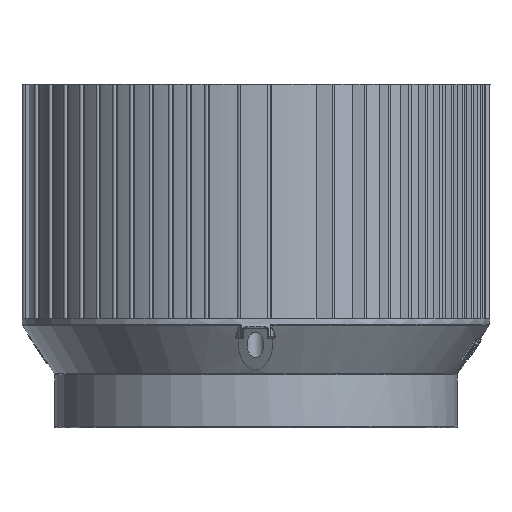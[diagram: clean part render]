
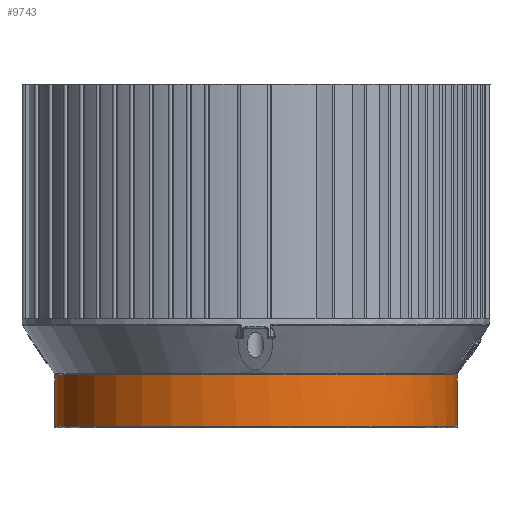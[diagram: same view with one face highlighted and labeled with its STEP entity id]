
A CAD part, front view. The second image highlights one B-rep face of the part: STEP entity #9743.
In plain terms, the highlighted cylindrical face has radius 30.1 mm (diameter 60.2 mm), a partial arc.
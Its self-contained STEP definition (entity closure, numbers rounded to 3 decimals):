
#2300=CARTESIAN_POINT('',(261.953,-40.756,
-40.891));
#2301=DIRECTION('',(0.,1.,0.));
#2302=DIRECTION('',(-0.543,0.,0.84));
#2303=AXIS2_PLACEMENT_3D('',#2300,#2301,#2302);
#2305=CARTESIAN_POINT('',(261.953,-40.756,
-40.891));
#2306=DIRECTION('',(0.,1.,0.));
#2307=DIRECTION('',(0.423,0.,0.906));
#2308=AXIS2_PLACEMENT_3D('',#2305,#2306,#2307);
#2310=CARTESIAN_POINT('',(261.953,-40.756,
-40.891));
#2311=DIRECTION('',(0.,1.,0.));
#2312=DIRECTION('',(0.771,0.,-0.637));
#2313=AXIS2_PLACEMENT_3D('',#2310,#2311,#2312);
#2315=CARTESIAN_POINT('',(261.953,-40.756,
-40.891));
#2316=DIRECTION('',(0.,1.,0.));
#2317=DIRECTION('',(-0.423,0.,-0.906));
#2318=AXIS2_PLACEMENT_3D('',#2315,#2316,#2317);
#2344=DIRECTION('',(0.,1.,0.));
#2345=VECTOR('',#2344,7.71);
#2346=CARTESIAN_POINT('',(238.593,-40.756,
-21.909));
#2347=LINE('',#2346,#2345);
#2378=CARTESIAN_POINT('',(261.953,-33.047,
-40.891));
#2379=DIRECTION('',(0.,-1.,0.));
#2380=DIRECTION('',(-0.776,0.,0.631));
#2381=AXIS2_PLACEMENT_3D('',#2378,#2379,#2380);
#2383=CARTESIAN_POINT('',(261.953,-33.047,
-40.891));
#2384=DIRECTION('',(0.,-1.,0.));
#2385=DIRECTION('',(-0.423,0.,-0.906));
#2386=AXIS2_PLACEMENT_3D('',#2383,#2384,#2385);
#2388=CARTESIAN_POINT('',(261.953,-33.047,
-40.891));
#2389=DIRECTION('',(0.,-1.,0.));
#2390=DIRECTION('',(0.551,0.,-0.834));
#2391=AXIS2_PLACEMENT_3D('',#2388,#2389,#2390);
#2393=CARTESIAN_POINT('',(261.953,-33.047,
-40.891));
#2394=DIRECTION('',(0.,-1.,0.));
#2395=DIRECTION('',(0.423,0.,0.906));
#2396=AXIS2_PLACEMENT_3D('',#2393,#2394,#2395);
#2398=DIRECTION('',(0.,1.,0.));
#2399=VECTOR('',#2398,7.71);
#2400=CARTESIAN_POINT('',(245.61,-40.756,
-15.614));
#2401=LINE('',#2400,#2399);
#5508=CARTESIAN_POINT('',(245.61,-40.756,
-15.614));
#5509=VERTEX_POINT('',#5508);
#5510=CARTESIAN_POINT('',(274.674,-40.756,
-13.611));
#5511=VERTEX_POINT('',#5510);
#5512=CARTESIAN_POINT('',(285.165,-40.756,
-60.054));
#5513=VERTEX_POINT('',#5512);
#5514=CARTESIAN_POINT('',(249.233,-40.756,
-68.171));
#5515=VERTEX_POINT('',#5514);
#5516=CARTESIAN_POINT('',(238.593,-40.756,
-21.909));
#5517=VERTEX_POINT('',#5516);
#5518=CARTESIAN_POINT('',(245.61,-33.047,
-15.614));
#5519=CARTESIAN_POINT('',(238.593,-33.047,
-21.909));
#5520=VERTEX_POINT('',#5518);
#5521=VERTEX_POINT('',#5519);
#5528=CARTESIAN_POINT('',(249.233,-33.047,
-68.171));
#5529=VERTEX_POINT('',#5528);
#5530=CARTESIAN_POINT('',(278.539,-33.047,
-66.009));
#5531=VERTEX_POINT('',#5530);
#5532=CARTESIAN_POINT('',(274.674,-33.047,
-13.611));
#5533=VERTEX_POINT('',#5532);
#9726=CARTESIAN_POINT('',(261.953,7.453,-40.891));
#9727=DIRECTION('',(0.,-1.,0.));
#9728=DIRECTION('',(0.423,0.,0.906));
#9729=AXIS2_PLACEMENT_3D('',#9726,#9727,#9728);
#9730=CYLINDRICAL_SURFACE('',#9729,30.1);
#9731=ORIENTED_EDGE('',*,*,#9720,.F.);
#9732=ORIENTED_EDGE('',*,*,#9718,.F.);
#9733=ORIENTED_EDGE('',*,*,#9716,.F.);
#9734=ORIENTED_EDGE('',*,*,#9714,.F.);
#9735=ORIENTED_EDGE('',*,*,#9673,.F.);
#9736=ORIENTED_EDGE('',*,*,#9641,.F.);
#9737=ORIENTED_EDGE('',*,*,#9639,.F.);
#9738=ORIENTED_EDGE('',*,*,#9637,.F.);
#9739=ORIENTED_EDGE('',*,*,#9635,.F.);
#9740=ORIENTED_EDGE('',*,*,#9669,.T.);
#9741=EDGE_LOOP('',(#9731,#9732,#9733,#9734,#9735,#9736,#9737,#9738,#9739,
#9740));
#9742=FACE_OUTER_BOUND('',#9741,.F.);
#9743=ADVANCED_FACE('',(#9742),#9730,.T.);
#2304=CIRCLE('',#2303,30.1);
#2309=CIRCLE('',#2308,30.1);
#2314=CIRCLE('',#2313,30.1);
#2319=CIRCLE('',#2318,30.1);
#2382=CIRCLE('',#2381,30.1);
#2387=CIRCLE('',#2386,30.1);
#2392=CIRCLE('',#2391,30.1);
#2397=CIRCLE('',#2396,30.1);
#9635=EDGE_CURVE('',#5509,#5511,#2304,.T.);
#9637=EDGE_CURVE('',#5511,#5513,#2309,.T.);
#9639=EDGE_CURVE('',#5513,#5515,#2314,.T.);
#9641=EDGE_CURVE('',#5515,#5517,#2319,.T.);
#9669=EDGE_CURVE('',#5509,#5520,#2401,.T.);
#9673=EDGE_CURVE('',#5517,#5521,#2347,.T.);
#9714=EDGE_CURVE('',#5521,#5529,#2382,.T.);
#9716=EDGE_CURVE('',#5529,#5531,#2387,.T.);
#9718=EDGE_CURVE('',#5531,#5533,#2392,.T.);
#9720=EDGE_CURVE('',#5533,#5520,#2397,.T.);
